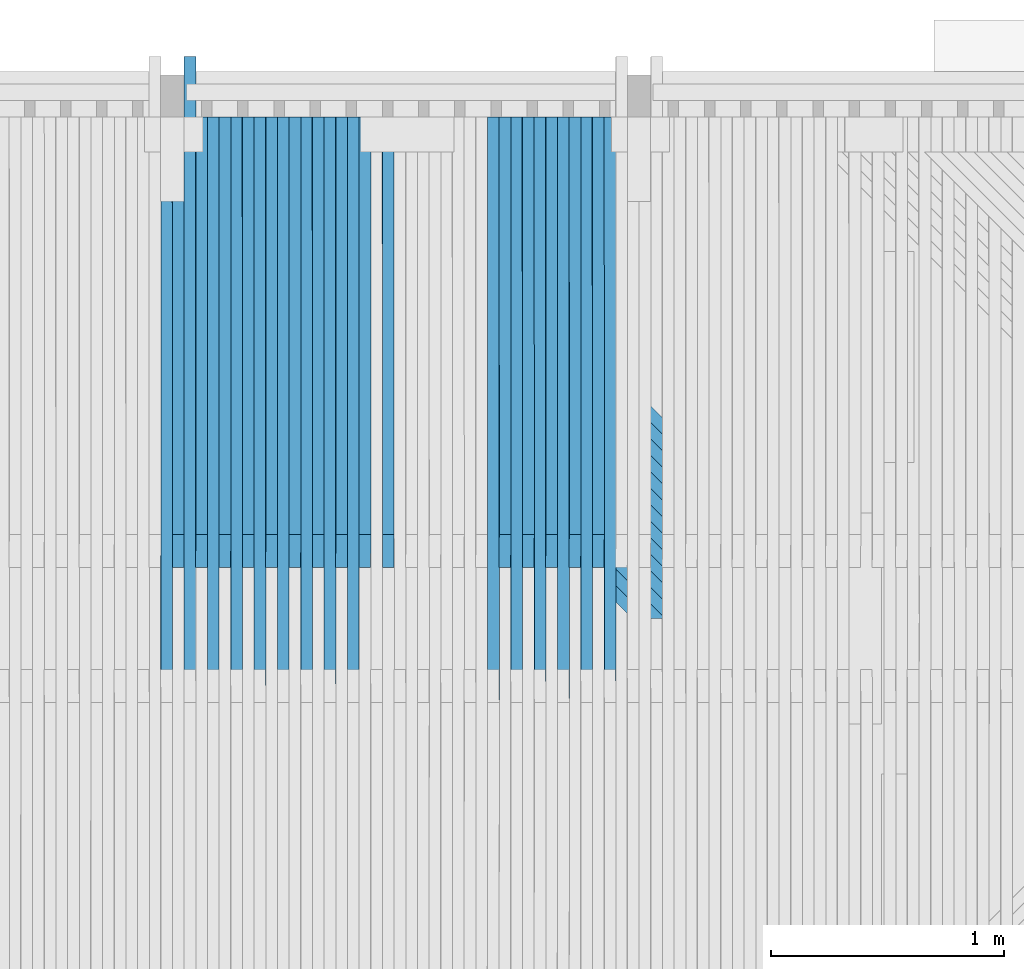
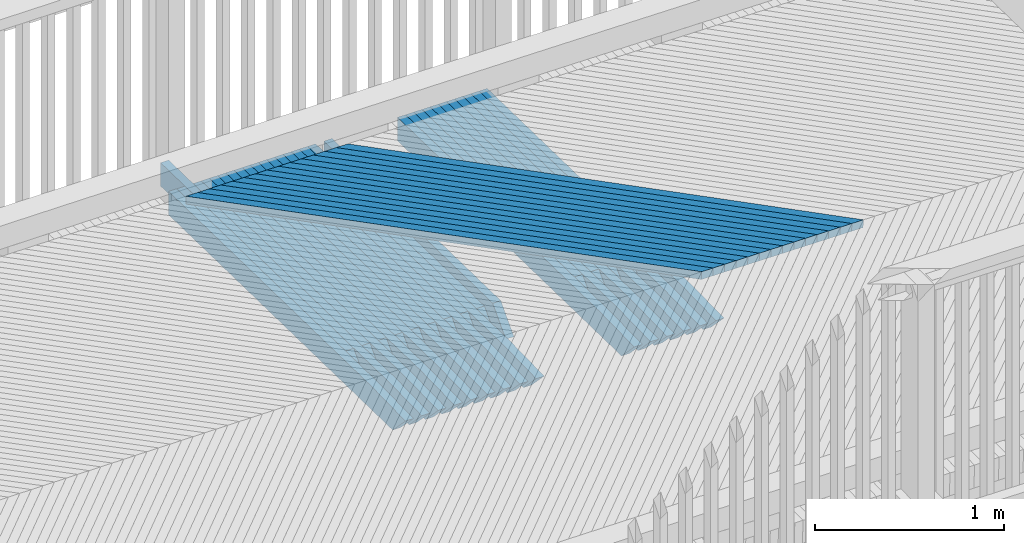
# One storey, part 41 of 52: 44 beams.
"""IFC2X3 building model written with IfcOpenShell, lengths in millimetres."""

from ifc_helpers import new_model, si_unit, frame, origin_with_axes, place, context, subcontext, project, spatial, faceted_brep, material, type_object, element, save


model = new_model("IFC2X3")

# Units and contexts
model_context = context("Model", 3, precision=1e-05, world=origin_with_axes())
body_context = subcontext(model_context, "Body", "Model", "MODEL_VIEW")
ifc_project = project(units=[si_unit("LENGTHUNIT", "METRE", prefix="MILLI"), si_unit("AREAUNIT", "SQUARE_METRE"), si_unit("VOLUMEUNIT", "CUBIC_METRE"), si_unit("MASSUNIT", "GRAM", prefix="KILO"), si_unit("TIMEUNIT", "SECOND"), si_unit("PLANEANGLEUNIT", "RADIAN"), si_unit("SOLIDANGLEUNIT", "STERADIAN"), si_unit("THERMODYNAMICTEMPERATUREUNIT", "DEGREE_CELSIUS"), si_unit("LUMINOUSINTENSITYUNIT", "LUMEN")], contexts=[model_context])

# Site, building, storey
site_placement = place(None, origin_with_axes())
site = spatial("IfcSite", under=ifc_project, at=site_placement, Name="Undefined", CompositionType="ELEMENT")
building_placement = place(site_placement, origin_with_axes())
building = spatial("IfcBuilding", under=site, at=building_placement, Name="Undefined", CompositionType="ELEMENT")
storey_placement = place(building_placement, origin_with_axes())
storey = spatial("IfcBuildingStorey", under=building, at=storey_placement, Name="Undefined", CompositionType="ELEMENT", Elevation=0.0)

# Beams
ifc_material = material(Name="TIMBER/Timber_Undefined")
beam_type_1 = type_object("IfcBeamType", Name="50*50", PredefinedType="NOTDEFINED")
for number, where, z_axis, x_axis, name in (
    (1, (14925.1802800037, 2365.49989967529, 3196.29569063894), (0.706919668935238, 0.706981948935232, -0.0210025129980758), (-0.70722726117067, 0.706948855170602, -0.00727442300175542), "BEAM"),
    (2, (14854.4606769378, 2365.49989967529, 3197.1049734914), (0.706922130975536, 0.706981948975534, -0.0209194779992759), (-0.707226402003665, 0.706948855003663, -0.00735749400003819), "BEAM"),
    (3, (14783.740979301, 2365.49989967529, 3197.90594956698), (0.706924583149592, 0.706981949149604, -0.020836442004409), (-0.70722553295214, 0.706948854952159, -0.00744056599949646), "BEAM"),
    (4, (14713.0211880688, 2365.49989967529, 3198.69861885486), (0.706927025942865, 0.706981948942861, -0.0207534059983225), (-0.707224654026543, 0.706948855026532, -0.00752363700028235), "BEAM"),
    (5, (14642.301304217, 2365.49989967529, 3199.4829813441), (0.706929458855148, 0.706981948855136, -0.0206703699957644), (-0.70722376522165, 0.706948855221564, -0.00760670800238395), "BEAM"),
    (6, (14571.5813287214, 2365.49989967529, 3200.25903702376), (0.706931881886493, 0.706981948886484, -0.0205873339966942), (-0.707222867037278, 0.706948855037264, -0.00768977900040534), "BEAM"),
    (7, (14500.8612625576, 2365.49989967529, 3201.02678588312), (0.706934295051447, 0.706981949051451, -0.0205042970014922), (-0.707221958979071, 0.70694885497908, -0.00777284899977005), "BEAM"),
    (8, (14430.1411067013, 2365.49989967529, 3201.78622791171), (0.706936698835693, 0.706981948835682, -0.0204212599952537), (-0.707221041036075, 0.706948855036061, -0.00785592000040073), "BEAM"),
    (9, (14359.4208621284, 2365.49989967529, 3202.53736309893), (0.706939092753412, 0.706981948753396, -0.0203382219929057), (-0.707220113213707, 0.706948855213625, -0.00793899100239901), "BEAM"),
    (10, (14288.7005298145, 2365.49989967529, 3203.28019143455), (0.706941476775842, 0.706981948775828, -0.0202551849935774), (-0.707219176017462, 0.706948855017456, -0.00802206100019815), "BEAM"),
    (11, (14217.9801107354, 2365.49989967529, 3204.01471290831), (0.706943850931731, 0.706981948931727, -0.0201721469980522), (-0.707218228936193, 0.706948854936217, -0.00810513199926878), "BEAM"),
    (12, (14147.2596058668, 2365.49989967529, 3204.74092750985), (0.706946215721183, 0.706981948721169, -0.0200891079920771), (-0.707217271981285, 0.706948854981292, -0.00818820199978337), "BEAM"),
    (13, (14076.5390161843, 2365.49989967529, 3205.45883522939), (0.706948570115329, 0.706981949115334, -0.0200060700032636), (-0.707216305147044, 0.706948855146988, -0.00827127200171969), "BEAM"),
    (14, (14005.8183426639, 2365.49989967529, 3206.16843605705), (0.706950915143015, 0.706981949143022, -0.0199230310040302), (-0.707215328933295, 0.70694885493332, -0.00835434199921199), "BEAM"),
):
    element("IfcBeam", number, at=place(storey_placement, frame(where, z_axis=z_axis, x_axis=x_axis)), inside=storey, type_object=beam_type_1, material=ifc_material, Name=name, ObjectType="50*50", context=body_context, shape_type="Brep", body=[
        faceted_brep([(23.5869248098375, 25.0, -25.0000000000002), (-26.4154158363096, 25.0000000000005, 24.9999999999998), (2802.92643296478, 25.0, 24.9999999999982), (2852.92877373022, 25.0000000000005, -25.0), (-25.0011704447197, -25.0, 24.9999999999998), (2804.3406783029, -25.0000000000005, 24.9999999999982), (25.0011701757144, -25.0, -25.0), (2854.34301907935, -24.9999999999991, -25.0)], [[[0, 1, 2, 3]], [[1, 4, 5, 2]], [[4, 6, 7, 5]], [[6, 0, 3, 7]], [[5, 7, 3, 2]], [[6, 4, 1, 0]]]),
    ])
beam_type_2 = type_object("IfcBeamType", Name="150*50", PredefinedType="NOTDEFINED")
for number, where, z_axis, x_axis, name in (
    (15, (13875.0597412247, 4513.4953923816, 3064.47376901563), (0.00967943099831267, 0.0199960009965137, 0.999753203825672), (0.000193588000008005, -0.999800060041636, 0.0199950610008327), "BEAM"),
    (16, (13775.0443914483, 4513.4953923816, 3065.44163255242), (0.00951331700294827, 0.0199960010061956, 0.999754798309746), (0.000190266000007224, -0.999800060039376, 0.0199950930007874), "BEAM"),
):
    element("IfcBeam", number, at=place(storey_placement, frame(where, z_axis=z_axis, x_axis=x_axis)), inside=storey, type_object=beam_type_2, material=ifc_material, Name=name, ObjectType="150*50", context=body_context, shape_type="Brep", body=[
        faceted_brep([(-1.67788130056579e-07, -24.9999999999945, -74.9999999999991), (-1.67787220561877e-07, 25.0000000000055, -75.0), (2375.00494422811, 25.0000000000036, -74.9999999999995), (2375.0049444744, -24.9999999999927, -74.9999999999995), (1.67786311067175e-07, -24.9999999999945, 75.0000000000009), (1.67786311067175e-07, 25.0000000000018, 75.0), (2150.42515052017, 25.0000000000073, 75.0), (2510.59248715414, 25.0000000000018, 60.5875433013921), (2510.5924871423, -24.9999999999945, 60.5875430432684), (2150.42514405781, -24.9999999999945, 75.0000000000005)], [[[0, 1, 2, 3]], [[0, 4, 5, 1]], [[2, 1, 5, 6, 7]], [[3, 2, 7, 8]], [[4, 0, 3, 8, 9]], [[5, 4, 9, 6]], [[8, 7, 6, 9]]]),
    ])
beam_1_placement = place(storey_placement, frame((13825.062080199, 4513.49539238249, 3064.95737203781), z_axis=(0.00967943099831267, 0.0199960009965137, 0.999753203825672), x_axis=(0.000193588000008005, -0.999800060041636, 0.0199950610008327)))
element("IfcBeam", 17, at=beam_1_placement, inside=storey, type_object=beam_type_2, material=ifc_material, Name="BEAM", ObjectType="150*50", context=body_context, shape_type="Brep", body=[
    faceted_brep([(-1.67788130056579e-07, -24.9999999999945, -74.9999999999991), (1.67786311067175e-07, -24.9999999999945, 75.0000000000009), (1.67786311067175e-07, 25.0000000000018, 75.0), (-1.67787220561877e-07, 25.0000000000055, -75.0), (1789.96936408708, 24.9999999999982, 75.0000000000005), (1928.42646328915, 24.9999999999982, -74.9999999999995), (1928.42646353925, -25.0, -75.0), (1789.96936433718, -25.0000000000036, 74.9999999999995)], [[[0, 1, 2, 3]], [[3, 2, 4, 5]], [[0, 3, 5, 6]], [[1, 0, 6, 7]], [[2, 1, 7, 4]], [[5, 4, 7, 6]]]),
])
beam_2_placement = place(storey_placement, frame((13675.0288822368, 4513.4953923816, 3066.39287799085), z_axis=(0.00934720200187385, 0.0199960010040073, 0.999756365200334), x_axis=(0.000186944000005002, -0.999800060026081, 0.0199951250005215)))
element("IfcBeam", 18, at=beam_2_placement, inside=storey, type_object=beam_type_2, material=ifc_material, Name="BEAM", ObjectType="150*50", context=body_context, shape_type="Brep", body=[
    faceted_brep([(-1.67788130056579e-07, -24.9999999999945, -74.9999999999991), (-1.67787220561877e-07, 25.0000000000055, -75.0), (2375.00494422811, 25.0000000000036, -74.9999999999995), (2375.0049444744, -24.9999999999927, -74.9999999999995), (1.67786311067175e-07, -24.9999999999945, 75.0000000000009), (1.67786311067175e-07, 25.0000000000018, 75.0), (2150.42515052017, 25.0000000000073, 75.0), (2510.59248715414, 25.0000000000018, 60.5875433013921), (2510.5924871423, -24.9999999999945, 60.5875430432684), (2150.42514405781, -24.9999999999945, 75.0000000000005)], [[[0, 1, 2, 3]], [[0, 4, 5, 1]], [[2, 1, 5, 6, 7]], [[3, 2, 7, 8]], [[4, 0, 3, 8, 9]], [[5, 4, 9, 6]], [[8, 7, 6, 9]]]),
])
beam_3_placement = place(storey_placement, frame((13725.0466507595, 4513.49539238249, 3065.91692818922), z_axis=(0.00951331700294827, 0.0199960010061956, 0.999754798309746), x_axis=(0.000190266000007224, -0.999800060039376, 0.0199950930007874)))
element("IfcBeam", 19, at=beam_3_placement, inside=storey, type_object=beam_type_2, material=ifc_material, Name="BEAM", ObjectType="150*50", context=body_context, shape_type="Brep", body=[
    faceted_brep([(-1.67788130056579e-07, -24.9999999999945, -74.9999999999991), (1.67786311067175e-07, -24.9999999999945, 75.0000000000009), (1.67786311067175e-07, 25.0000000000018, 75.0), (-1.67787220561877e-07, 25.0000000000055, -75.0), (1789.96936408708, 24.9999999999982, 75.0000000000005), (1928.42646328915, 24.9999999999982, -74.9999999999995), (1928.42646353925, -25.0, -75.0), (1789.96936433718, -25.0000000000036, 74.9999999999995)], [[[0, 1, 2, 3]], [[3, 2, 4, 5]], [[0, 3, 5, 6]], [[1, 0, 6, 7]], [[2, 1, 7, 4]], [[5, 4, 7, 6]]]),
])
beam_4_placement = place(storey_placement, frame((13575.0132163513, 4513.4953923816, 3067.32750530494), z_axis=(0.00918108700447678, 0.0199960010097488, 0.999757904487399), x_axis=(0.000183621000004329, -0.999800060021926, 0.0199951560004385)))
element("IfcBeam", 20, at=beam_4_placement, inside=storey, type_object=beam_type_2, material=ifc_material, Name="BEAM", ObjectType="150*50", context=body_context, shape_type="Brep", body=[
    faceted_brep([(-1.67788130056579e-07, -24.9999999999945, -74.9999999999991), (-1.67787220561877e-07, 25.0000000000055, -75.0), (2375.00494422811, 25.0000000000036, -74.9999999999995), (2375.0049444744, -24.9999999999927, -74.9999999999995), (1.67786311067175e-07, -24.9999999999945, 75.0000000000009), (1.67786311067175e-07, 25.0000000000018, 75.0), (2150.42515052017, 25.0000000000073, 75.0), (2510.59248715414, 25.0000000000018, 60.5875433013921), (2510.5924871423, -24.9999999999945, 60.5875430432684), (2150.42514405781, -24.9999999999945, 75.0000000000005)], [[[0, 1, 2, 3]], [[0, 4, 5, 1]], [[2, 1, 5, 6, 7]], [[3, 2, 7, 8]], [[4, 0, 3, 8, 9]], [[5, 4, 9, 6]], [[8, 7, 6, 9]]]),
])
beam_5_placement = place(storey_placement, frame((13625.0310632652, 4513.49539238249, 3066.85986622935), z_axis=(0.00934720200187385, 0.0199960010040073, 0.999756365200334), x_axis=(0.000186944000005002, -0.999800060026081, 0.0199951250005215)))
element("IfcBeam", 21, at=beam_5_placement, inside=storey, type_object=beam_type_2, material=ifc_material, Name="BEAM", ObjectType="150*50", context=body_context, shape_type="Brep", body=[
    faceted_brep([(-1.67788130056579e-07, -24.9999999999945, -74.9999999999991), (1.67786311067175e-07, -24.9999999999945, 75.0000000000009), (1.67786311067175e-07, 25.0000000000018, 75.0), (-1.67787220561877e-07, 25.0000000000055, -75.0), (1789.96936408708, 24.9999999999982, 75.0000000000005), (1928.42646328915, 24.9999999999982, -74.9999999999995), (1928.42646353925, -25.0, -75.0), (1789.96936433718, -25.0000000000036, 74.9999999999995)], [[[0, 1, 2, 3]], [[3, 2, 4, 5]], [[0, 3, 5, 6]], [[1, 0, 6, 7]], [[2, 1, 7, 4]], [[5, 4, 7, 6]]]),
])
beam_6_placement = place(storey_placement, frame((13474.9973965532, 4513.4953923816, 3068.24551446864), z_axis=(0.00901497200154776, 0.0199960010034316, 0.999759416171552), x_axis=(0.000180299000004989, -0.999800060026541, 0.0199951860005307)))
element("IfcBeam", 22, at=beam_6_placement, inside=storey, type_object=beam_type_2, material=ifc_material, Name="BEAM", ObjectType="150*50", context=body_context, shape_type="Brep", body=[
    faceted_brep([(-1.67788130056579e-07, -24.9999999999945, -74.9999999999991), (-1.67787220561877e-07, 25.0000000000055, -75.0), (2375.00494422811, 25.0000000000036, -74.9999999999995), (2375.0049444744, -24.9999999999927, -74.9999999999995), (1.67786311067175e-07, -24.9999999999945, 75.0000000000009), (1.67786311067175e-07, 25.0000000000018, 75.0), (2150.42515052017, 25.0000000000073, 75.0), (2510.59248715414, 25.0000000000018, 60.5875433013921), (2510.5924871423, -24.9999999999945, 60.5875430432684), (2150.42514405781, -24.9999999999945, 75.0000000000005)], [[[0, 1, 2, 3]], [[0, 4, 5, 1]], [[2, 1, 5, 6, 7]], [[3, 2, 7, 8]], [[4, 0, 3, 8, 9]], [[5, 4, 9, 6]], [[8, 7, 6, 9]]]),
])
beam_7_placement = place(storey_placement, frame((13525.0153204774, 4513.49539238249, 3067.78618613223), z_axis=(0.00918108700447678, 0.0199960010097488, 0.999757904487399), x_axis=(0.000183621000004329, -0.999800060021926, 0.0199951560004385)))
element("IfcBeam", 23, at=beam_7_placement, inside=storey, type_object=beam_type_2, material=ifc_material, Name="BEAM", ObjectType="150*50", context=body_context, shape_type="Brep", body=[
    faceted_brep([(-1.67788130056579e-07, -24.9999999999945, -74.9999999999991), (1.67786311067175e-07, -24.9999999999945, 75.0000000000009), (1.67786311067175e-07, 25.0000000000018, 75.0), (-1.67787220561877e-07, 25.0000000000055, -75.0), (1789.96936408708, 24.9999999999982, 75.0000000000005), (1928.42646328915, 24.9999999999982, -74.9999999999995), (1928.42646353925, -25.0, -75.0), (1789.96936433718, -25.0000000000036, 74.9999999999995)], [[[0, 1, 2, 3]], [[3, 2, 4, 5]], [[0, 3, 5, 6]], [[1, 0, 6, 7]], [[2, 1, 7, 4]], [[5, 4, 7, 6]]]),
])
beam_8_placement = place(storey_placement, frame((13374.9814256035, 4513.4953923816, 3069.1469054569), z_axis=(0.00884885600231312, 0.0199960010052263, 0.999760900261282), x_axis=(0.000176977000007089, -0.999800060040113, 0.0199952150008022)))
element("IfcBeam", 24, at=beam_8_placement, inside=storey, type_object=beam_type_2, material=ifc_material, Name="BEAM", ObjectType="150*50", context=body_context, shape_type="Brep", body=[
    faceted_brep([(-1.67788130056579e-07, -24.9999999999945, -74.9999999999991), (-1.67787220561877e-07, 25.0000000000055, -75.0), (2375.00494422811, 25.0000000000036, -74.9999999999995), (2375.0049444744, -24.9999999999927, -74.9999999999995), (1.67786311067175e-07, -24.9999999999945, 75.0000000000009), (1.67786311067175e-07, 25.0000000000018, 75.0), (2150.42515052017, 25.0000000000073, 75.0), (2510.59248715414, 25.0000000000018, 60.5875433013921), (2510.5924871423, -24.9999999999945, 60.5875430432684), (2150.42514405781, -24.9999999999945, 75.0000000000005)], [[[0, 1, 2, 3]], [[0, 4, 5, 1]], [[2, 1, 5, 6, 7]], [[3, 2, 7, 8]], [[4, 0, 3, 8, 9]], [[5, 4, 9, 6]], [[8, 7, 6, 9]]]),
])
for number, where, z_axis, x_axis, name in (
    (25, (13424.9994251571, 4513.49539238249, 3068.69588787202), (0.00901497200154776, 0.0199960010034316, 0.999759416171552), (0.000180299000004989, -0.999800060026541, 0.0199951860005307), "BEAM"),
    (26, (12924.9177572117, 4513.49539238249, 3072.99512326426), (0.00818439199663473, 0.0199960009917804, 0.999766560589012), (0.000163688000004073, -0.999800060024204, 0.019995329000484), "BEAM"),
):
    element("IfcBeam", number, at=place(storey_placement, frame(where, z_axis=z_axis, x_axis=x_axis)), inside=storey, type_object=beam_type_2, material=ifc_material, Name=name, ObjectType="150*50", context=body_context, shape_type="Brep", body=[
        faceted_brep([(-1.67788130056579e-07, -24.9999999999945, -74.9999999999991), (1.67786311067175e-07, -24.9999999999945, 75.0000000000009), (1.67786311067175e-07, 25.0000000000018, 75.0), (-1.67787220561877e-07, 25.0000000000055, -75.0), (1789.96936408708, 24.9999999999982, 75.0000000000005), (1928.42646328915, 24.9999999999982, -74.9999999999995), (1928.42646353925, -25.0, -75.0), (1789.96936433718, -25.0000000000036, 74.9999999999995)], [[[0, 1, 2, 3]], [[3, 2, 4, 5]], [[0, 3, 5, 6]], [[1, 0, 6, 7]], [[2, 1, 7, 4]], [[5, 4, 7, 6]]]),
    ])
beam_9_placement = place(storey_placement, frame((12774.8825803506, 4513.4953923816, 3074.20626833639), z_axis=(0.00785215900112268, 0.0199960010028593, 0.99976922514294), x_axis=(0.00015704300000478, -0.999800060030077, 0.0199953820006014)))
element("IfcBeam", 27, at=beam_9_placement, inside=storey, type_object=beam_type_2, material=ifc_material, Name="BEAM", ObjectType="150*50", context=body_context, shape_type="Brep", body=[
    faceted_brep([(-1.67788130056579e-07, -24.9999999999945, -74.9999999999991), (-1.67787220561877e-07, 25.0000000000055, -75.0), (2375.00494422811, 25.0000000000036, -74.9999999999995), (2375.0049444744, -24.9999999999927, -74.9999999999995), (1.67786311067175e-07, -24.9999999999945, 75.0000000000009), (1.67786311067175e-07, 25.0000000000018, 75.0), (2150.42515052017, 25.0000000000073, 75.0), (2510.59248715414, 25.0000000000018, 60.5875433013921), (2510.5924871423, -24.9999999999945, 60.5875430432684), (2150.42514405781, -24.9999999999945, 75.0000000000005)], [[[0, 1, 2, 3]], [[0, 4, 5, 1]], [[2, 1, 5, 6, 7]], [[3, 2, 7, 8]], [[4, 0, 3, 8, 9]], [[5, 4, 9, 6]], [[8, 7, 6, 9]]]),
])
beam_10_placement = place(storey_placement, frame((12824.9010046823, 4513.49539238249, 3073.80511551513), z_axis=(0.00801827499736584, 0.0199960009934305, 0.999767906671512), x_axis=(0.0001603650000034, -0.999800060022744, 0.0199953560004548)))
element("IfcBeam", 28, at=beam_10_placement, inside=storey, type_object=beam_type_2, material=ifc_material, Name="BEAM", ObjectType="150*50", context=body_context, shape_type="Brep", body=[
    faceted_brep([(-1.67788130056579e-07, -24.9999999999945, -74.9999999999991), (1.67786311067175e-07, -24.9999999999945, 75.0000000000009), (1.67786311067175e-07, 25.0000000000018, 75.0), (-1.67787220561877e-07, 25.0000000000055, -75.0), (1789.96936408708, 24.9999999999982, 75.0000000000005), (1928.42646328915, 24.9999999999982, -74.9999999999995), (1928.42646353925, -25.0, -75.0), (1789.96936433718, -25.0000000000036, 74.9999999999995)], [[[0, 1, 2, 3]], [[3, 2, 4, 5]], [[0, 3, 5, 6]], [[1, 0, 6, 7]], [[2, 1, 7, 4]], [[5, 4, 7, 6]]]),
])
beam_11_placement = place(storey_placement, frame((12674.8656286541, 4513.4953923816, 3074.99133142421), z_axis=(0.00768604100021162, 0.0199960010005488, 0.999770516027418), x_axis=(0.000153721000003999, -0.999800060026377, 0.0199954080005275)))
element("IfcBeam", 29, at=beam_11_placement, inside=storey, type_object=beam_type_2, material=ifc_material, Name="BEAM", ObjectType="150*50", context=body_context, shape_type="Brep", body=[
    faceted_brep([(-1.67788130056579e-07, -24.9999999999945, -74.9999999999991), (-1.67787220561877e-07, 25.0000000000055, -75.0), (2375.00494422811, 25.0000000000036, -74.9999999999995), (2375.0049444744, -24.9999999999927, -74.9999999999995), (1.67786311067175e-07, -24.9999999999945, 75.0000000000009), (1.67786311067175e-07, 25.0000000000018, 75.0), (2150.42515052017, 25.0000000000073, 75.0), (2510.59248715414, 25.0000000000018, 60.5875433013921), (2510.5924871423, -24.9999999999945, 60.5875430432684), (2150.42514405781, -24.9999999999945, 75.0000000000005)], [[[0, 1, 2, 3]], [[0, 4, 5, 1]], [[2, 1, 5, 6, 7]], [[3, 2, 7, 8]], [[4, 0, 3, 8, 9]], [[5, 4, 9, 6]], [[8, 7, 6, 9]]]),
])
beam_12_placement = place(storey_placement, frame((12724.884118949, 4513.49539238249, 3074.5984894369), z_axis=(0.00785215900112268, 0.0199960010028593, 0.99976922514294), x_axis=(0.00015704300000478, -0.999800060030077, 0.0199953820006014)))
element("IfcBeam", 30, at=beam_12_placement, inside=storey, type_object=beam_type_2, material=ifc_material, Name="BEAM", ObjectType="150*50", context=body_context, shape_type="Brep", body=[
    faceted_brep([(-1.67788130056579e-07, -24.9999999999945, -74.9999999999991), (1.67786311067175e-07, -24.9999999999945, 75.0000000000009), (1.67786311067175e-07, 25.0000000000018, 75.0), (-1.67787220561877e-07, 25.0000000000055, -75.0), (1789.96936408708, 24.9999999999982, 75.0000000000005), (1928.42646328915, 24.9999999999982, -74.9999999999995), (1928.42646353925, -25.0, -75.0), (1789.96936433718, -25.0000000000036, 74.9999999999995)], [[[0, 1, 2, 3]], [[3, 2, 4, 5]], [[0, 3, 5, 6]], [[1, 0, 6, 7]], [[2, 1, 7, 4]], [[5, 4, 7, 6]]]),
])
beam_13_placement = place(storey_placement, frame((12574.8485478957, 4513.4953923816, 3075.75977614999), z_axis=(0.00751992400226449, 0.0199960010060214, 0.99977177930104), x_axis=(0.000150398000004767, -0.999800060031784, 0.0199954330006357)))
element("IfcBeam", 31, at=beam_13_placement, inside=storey, type_object=beam_type_2, material=ifc_material, Name="BEAM", ObjectType="150*50", context=body_context, shape_type="Brep", body=[
    faceted_brep([(-1.67788130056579e-07, -24.9999999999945, -74.9999999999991), (-1.67787220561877e-07, 25.0000000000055, -75.0), (2375.00494422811, 25.0000000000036, -74.9999999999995), (2375.0049444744, -24.9999999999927, -74.9999999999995), (1.67786311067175e-07, -24.9999999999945, 75.0000000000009), (1.67786311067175e-07, 25.0000000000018, 75.0), (2150.42515052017, 25.0000000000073, 75.0), (2510.59248715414, 25.0000000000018, 60.5875433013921), (2510.5924871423, -24.9999999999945, 60.5875430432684), (2150.42514405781, -24.9999999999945, 75.0000000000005)], [[[0, 1, 2, 3]], [[0, 4, 5, 1]], [[2, 1, 5, 6, 7]], [[3, 2, 7, 8]], [[4, 0, 3, 8, 9]], [[5, 4, 9, 6]], [[8, 7, 6, 9]]]),
])
beam_14_placement = place(storey_placement, frame((12624.8671027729, 4513.49539238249, 3075.37524500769), z_axis=(0.00768604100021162, 0.0199960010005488, 0.999770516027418), x_axis=(0.000153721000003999, -0.999800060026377, 0.0199954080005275)))
element("IfcBeam", 32, at=beam_14_placement, inside=storey, type_object=beam_type_2, material=ifc_material, Name="BEAM", ObjectType="150*50", context=body_context, shape_type="Brep", body=[
    faceted_brep([(-1.67788130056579e-07, -24.9999999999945, -74.9999999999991), (1.67786311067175e-07, -24.9999999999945, 75.0000000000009), (1.67786311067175e-07, 25.0000000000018, 75.0), (-1.67787220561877e-07, 25.0000000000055, -75.0), (1789.96936408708, 24.9999999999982, 75.0000000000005), (1928.42646328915, 24.9999999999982, -74.9999999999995), (1928.42646353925, -25.0, -75.0), (1789.96936433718, -25.0000000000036, 74.9999999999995)], [[[0, 1, 2, 3]], [[3, 2, 4, 5]], [[0, 3, 5, 6]], [[1, 0, 6, 7]], [[2, 1, 7, 4]], [[5, 4, 7, 6]]]),
])
beam_15_placement = place(storey_placement, frame((12474.8313408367, 4513.4953923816, 3076.51160249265), z_axis=(0.00735380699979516, 0.0199960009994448, 0.999773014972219), x_axis=(0.000147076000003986, -0.999800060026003, 0.01999545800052)))
element("IfcBeam", 33, at=beam_15_placement, inside=storey, type_object=beam_type_2, material=ifc_material, Name="BEAM", ObjectType="150*50", context=body_context, shape_type="Brep", body=[
    faceted_brep([(-1.67788130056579e-07, -24.9999999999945, -74.9999999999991), (-1.67787220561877e-07, 25.0000000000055, -75.0), (2375.00494422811, 25.0000000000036, -74.9999999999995), (2375.0049444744, -24.9999999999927, -74.9999999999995), (1.67786311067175e-07, -24.9999999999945, 75.0000000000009), (1.67786311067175e-07, 25.0000000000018, 75.0), (2150.42515052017, 25.0000000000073, 75.0), (2510.59248715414, 25.0000000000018, 60.5875433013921), (2510.5924871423, -24.9999999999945, 60.5875430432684), (2150.42514405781, -24.9999999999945, 75.0000000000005)], [[[0, 1, 2, 3]], [[0, 4, 5, 1]], [[2, 1, 5, 6, 7]], [[3, 2, 7, 8]], [[4, 0, 3, 8, 9]], [[5, 4, 9, 6]], [[8, 7, 6, 9]]]),
])
beam_16_placement = place(storey_placement, frame((12524.8499589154, 4513.49539238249, 3076.13538220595), z_axis=(0.00751992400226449, 0.0199960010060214, 0.99977177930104), x_axis=(0.000150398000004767, -0.999800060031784, 0.0199954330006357)))
element("IfcBeam", 34, at=beam_16_placement, inside=storey, type_object=beam_type_2, material=ifc_material, Name="BEAM", ObjectType="150*50", context=body_context, shape_type="Brep", body=[
    faceted_brep([(-1.67788130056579e-07, -24.9999999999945, -74.9999999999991), (1.67786311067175e-07, -24.9999999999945, 75.0000000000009), (1.67786311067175e-07, 25.0000000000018, 75.0), (-1.67787220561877e-07, 25.0000000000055, -75.0), (1789.96936408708, 24.9999999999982, 75.0000000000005), (1928.42646328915, 24.9999999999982, -74.9999999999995), (1928.42646353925, -25.0, -75.0), (1789.96936433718, -25.0000000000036, 74.9999999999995)], [[[0, 1, 2, 3]], [[3, 2, 4, 5]], [[0, 3, 5, 6]], [[1, 0, 6, 7]], [[2, 1, 7, 4]], [[5, 4, 7, 6]]]),
])
beam_17_placement = place(storey_placement, frame((12374.8140102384, 4513.4953923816, 3077.24681043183), z_axis=(0.00718768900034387, 0.0199960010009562, 0.999774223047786), x_axis=(0.000143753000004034, -0.999800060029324, 0.0199954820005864)))
element("IfcBeam", 35, at=beam_17_placement, inside=storey, type_object=beam_type_2, material=ifc_material, Name="BEAM", ObjectType="150*50", context=body_context, shape_type="Brep", body=[
    faceted_brep([(-1.67788130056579e-07, -24.9999999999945, -74.9999999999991), (-1.67787220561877e-07, 25.0000000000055, -75.0), (2375.00494422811, 25.0000000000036, -74.9999999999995), (2375.0049444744, -24.9999999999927, -74.9999999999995), (1.67786311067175e-07, -24.9999999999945, 75.0000000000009), (1.67786311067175e-07, 25.0000000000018, 75.0), (2150.42515052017, 25.0000000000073, 75.0), (2510.59248715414, 25.0000000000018, 60.5875433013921), (2510.5924871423, -24.9999999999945, 60.5875430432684), (2150.42514405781, -24.9999999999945, 75.0000000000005)], [[[0, 1, 2, 3]], [[0, 4, 5, 1]], [[2, 1, 5, 6, 7]], [[3, 2, 7, 8]], [[4, 0, 3, 8, 9]], [[5, 4, 9, 6]], [[8, 7, 6, 9]]]),
])
beam_18_placement = place(storey_placement, frame((12424.8326901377, 4513.49539238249, 3076.87890101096), z_axis=(0.00735380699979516, 0.0199960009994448, 0.999773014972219), x_axis=(0.000147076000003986, -0.999800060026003, 0.01999545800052)))
element("IfcBeam", 36, at=beam_18_placement, inside=storey, type_object=beam_type_2, material=ifc_material, Name="BEAM", ObjectType="150*50", context=body_context, shape_type="Brep", body=[
    faceted_brep([(-1.67788130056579e-07, -24.9999999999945, -74.9999999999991), (1.67786311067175e-07, -24.9999999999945, 75.0000000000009), (1.67786311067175e-07, 25.0000000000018, 75.0), (-1.67787220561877e-07, 25.0000000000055, -75.0), (1789.96936408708, 24.9999999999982, 75.0000000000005), (1928.42646328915, 24.9999999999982, -74.9999999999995), (1928.42646353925, -25.0, -75.0), (1789.96936433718, -25.0000000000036, 74.9999999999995)], [[[0, 1, 2, 3]], [[3, 2, 4, 5]], [[0, 3, 5, 6]], [[1, 0, 6, 7]], [[2, 1, 7, 4]], [[5, 4, 7, 6]]]),
])
beam_19_placement = place(storey_placement, frame((12274.796558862, 4513.4953923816, 3077.96539994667), z_axis=(0.00702157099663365, 0.0199960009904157, 0.999775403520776), x_axis=(0.000140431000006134, -0.999800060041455, 0.019995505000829)))
element("IfcBeam", 37, at=beam_19_placement, inside=storey, type_object=beam_type_2, material=ifc_material, Name="BEAM", ObjectType="150*50", context=body_context, shape_type="Brep", body=[
    faceted_brep([(-1.67788130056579e-07, -24.9999999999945, -74.9999999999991), (-1.67787220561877e-07, 25.0000000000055, -75.0), (2375.00494422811, 25.0000000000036, -74.9999999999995), (2375.0049444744, -24.9999999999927, -74.9999999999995), (1.67786311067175e-07, -24.9999999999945, 75.0000000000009), (1.67786311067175e-07, 25.0000000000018, 75.0), (2150.42515052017, 25.0000000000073, 75.0), (2510.59248715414, 25.0000000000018, 60.5875433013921), (2510.5924871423, -24.9999999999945, 60.5875430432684), (2150.42514405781, -24.9999999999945, 75.0000000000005)], [[[0, 1, 2, 3]], [[0, 4, 5, 1]], [[2, 1, 5, 6, 7]], [[3, 2, 7, 8]], [[4, 0, 3, 8, 9]], [[5, 4, 9, 6]], [[8, 7, 6, 9]]]),
])
beam_20_placement = place(storey_placement, frame((12324.8152992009, 4513.49539238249, 3077.60580140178), z_axis=(0.00718768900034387, 0.0199960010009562, 0.999774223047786), x_axis=(0.000143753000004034, -0.999800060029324, 0.0199954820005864)))
element("IfcBeam", 38, at=beam_20_placement, inside=storey, type_object=beam_type_2, material=ifc_material, Name="BEAM", ObjectType="150*50", context=body_context, shape_type="Brep", body=[
    faceted_brep([(-1.67788130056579e-07, -24.9999999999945, -74.9999999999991), (1.67786311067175e-07, -24.9999999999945, 75.0000000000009), (1.67786311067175e-07, 25.0000000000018, 75.0), (-1.67787220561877e-07, 25.0000000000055, -75.0), (1789.96936408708, 24.9999999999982, 75.0000000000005), (1928.42646328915, 24.9999999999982, -74.9999999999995), (1928.42646353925, -25.0, -75.0), (1789.96936433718, -25.0000000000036, 74.9999999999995)], [[[0, 1, 2, 3]], [[3, 2, 4, 5]], [[0, 3, 5, 6]], [[1, 0, 6, 7]], [[2, 1, 7, 4]], [[5, 4, 7, 6]]]),
])
beam_21_placement = place(storey_placement, frame((12174.7789894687, 4513.4953923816, 3078.66737101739), z_axis=(0.00685545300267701, 0.0199960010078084, 0.999776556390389), x_axis=(0.000137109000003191, -0.99980006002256, 0.0199955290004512)))
element("IfcBeam", 39, at=beam_21_placement, inside=storey, type_object=beam_type_2, material=ifc_material, Name="BEAM", ObjectType="150*50", context=body_context, shape_type="Brep", body=[
    faceted_brep([(-1.67788130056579e-07, -24.9999999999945, -74.9999999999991), (-1.67787220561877e-07, 25.0000000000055, -75.0), (2375.00494422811, 25.0000000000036, -74.9999999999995), (2375.0049444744, -24.9999999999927, -74.9999999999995), (1.67786311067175e-07, -24.9999999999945, 75.0000000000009), (1.67786311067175e-07, 25.0000000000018, 75.0), (2150.42515052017, 25.0000000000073, 75.0), (2510.59248715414, 25.0000000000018, 60.5875433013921), (2510.5924871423, -24.9999999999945, 60.5875430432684), (2150.42514405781, -24.9999999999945, 75.0000000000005)], [[[0, 1, 2, 3]], [[0, 4, 5, 1]], [[2, 1, 5, 6, 7]], [[3, 2, 7, 8]], [[4, 0, 3, 8, 9]], [[5, 4, 9, 6]], [[8, 7, 6, 9]]]),
])
for number, where, z_axis, x_axis, name in (
    (40, (12224.7977888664, 4513.49539238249, 3078.3160833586), (0.00702157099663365, 0.0199960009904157, 0.999775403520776), (0.000140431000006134, -0.999800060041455, 0.019995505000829), "BEAM"),
    (41, (12124.7801618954, 4513.49539238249, 3079.00974686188), (0.00685545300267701, 0.0199960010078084, 0.999776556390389), (0.000137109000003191, -0.99980006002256, 0.0199955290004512), "BEAM"),
):
    element("IfcBeam", number, at=place(storey_placement, frame(where, z_axis=z_axis, x_axis=x_axis)), inside=storey, type_object=beam_type_2, material=ifc_material, Name=name, ObjectType="150*50", context=body_context, shape_type="Brep", body=[
        faceted_brep([(-1.67788130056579e-07, -24.9999999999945, -74.9999999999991), (1.67786311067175e-07, -24.9999999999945, 75.0000000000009), (1.67786311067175e-07, 25.0000000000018, 75.0), (-1.67787220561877e-07, 25.0000000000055, -75.0), (1789.96936408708, 24.9999999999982, 75.0000000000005), (1928.42646328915, 24.9999999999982, -74.9999999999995), (1928.42646353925, -25.0, -75.0), (1789.96936433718, -25.0000000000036, 74.9999999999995)], [[[0, 1, 2, 3]], [[3, 2, 4, 5]], [[0, 3, 5, 6]], [[1, 0, 6, 7]], [[2, 1, 7, 4]], [[5, 4, 7, 6]]]),
    ])
beam_22_placement = place(storey_placement, frame((11974.7435076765, 4513.4953923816, 3080.02145775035), z_axis=(0.00652321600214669, 0.0199960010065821, 0.999778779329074), x_axis=(0.000130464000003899, -0.999800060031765, 0.0199955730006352)))
element("IfcBeam", 42, at=beam_22_placement, inside=storey, type_object=beam_type_2, material=ifc_material, Name="BEAM", ObjectType="150*50", context=body_context, shape_type="Brep", body=[
    faceted_brep([(-1.67788130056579e-07, -24.9999999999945, -74.9999999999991), (-1.67787220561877e-07, 25.0000000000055, -75.0), (2375.00494422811, 25.0000000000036, -74.9999999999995), (2375.0049444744, -24.9999999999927, -74.9999999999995), (1.67786311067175e-07, -24.9999999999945, 75.0000000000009), (1.67786311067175e-07, 25.0000000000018, 75.0), (2150.42515052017, 25.0000000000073, 75.0), (2510.59248715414, 25.0000000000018, 60.5875433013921), (2510.5924871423, -24.9999999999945, 60.5875430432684), (2150.42514405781, -24.9999999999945, 75.0000000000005)], [[[0, 1, 2, 3]], [[0, 4, 5, 1]], [[2, 1, 5, 6, 7]], [[3, 2, 7, 8]], [[4, 0, 3, 8, 9]], [[5, 4, 9, 6]], [[8, 7, 6, 9]]]),
])
beam_23_placement = place(storey_placement, frame((12024.762421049, 4513.49539238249, 3079.68679189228), z_axis=(0.00668933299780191, 0.0199960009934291, 0.999777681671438), x_axis=(0.000133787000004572, -0.999800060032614, 0.0199955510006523)))
element("IfcBeam", 43, at=beam_23_placement, inside=storey, type_object=beam_type_2, material=ifc_material, Name="BEAM", ObjectType="150*50", context=body_context, shape_type="Brep", body=[
    faceted_brep([(-1.67788130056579e-07, -24.9999999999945, -74.9999999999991), (1.67786311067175e-07, -24.9999999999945, 75.0000000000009), (1.67786311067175e-07, 25.0000000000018, 75.0), (-1.67787220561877e-07, 25.0000000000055, -75.0), (1789.96936408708, 24.9999999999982, 75.0000000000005), (1928.42646328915, 24.9999999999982, -74.9999999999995), (1928.42646353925, -25.0, -75.0), (1789.96936433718, -25.0000000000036, 74.9999999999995)], [[[0, 1, 2, 3]], [[3, 2, 4, 5]], [[0, 3, 5, 6]], [[1, 0, 6, 7]], [[2, 1, 7, 4]], [[5, 4, 7, 6]]]),
])
beam_24_placement = place(storey_placement, frame((12074.8964111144, 4771.44380785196, 3074.19368747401), z_axis=(0.00668828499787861, 0.0199960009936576, 0.999777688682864), x_axis=(0.000133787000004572, -0.999800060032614, 0.0199955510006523)))
element("IfcBeam", 44, at=beam_24_placement, inside=storey, type_object=beam_type_2, material=ifc_material, Name="BEAM", ObjectType="150*50", context=body_context, shape_type="Brep", body=[
    faceted_brep([(-1.67788130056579e-07, -24.9999999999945, -74.9999999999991), (-1.67787220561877e-07, 25.0000000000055, -75.0), (2633.00494750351, 25.0, -74.9999999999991), (2633.00494763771, -25.0, -74.9999999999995), (1.67786311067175e-07, -24.9999999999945, 75.0000000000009), (1.67786311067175e-07, 25.0000000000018, 75.0), (2408.42506824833, 25.0, 75.0000000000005), (2768.59248710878, 24.9999999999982, 60.5875398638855), (2768.59248713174, -25.0, 60.5875397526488), (2408.42506549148, -25.0, 75.0000000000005)], [[[0, 1, 2, 3]], [[0, 4, 5, 1]], [[2, 1, 5, 6, 7]], [[3, 2, 7, 8]], [[4, 0, 3, 8, 9]], [[5, 4, 9, 6]], [[8, 7, 6, 9]]]),
])

save(model, "model.ifc")
